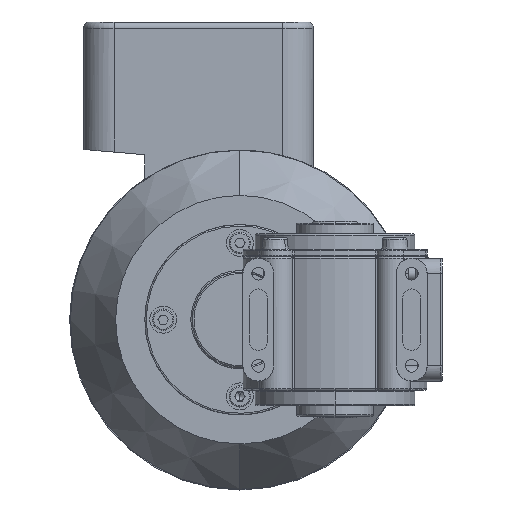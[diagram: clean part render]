
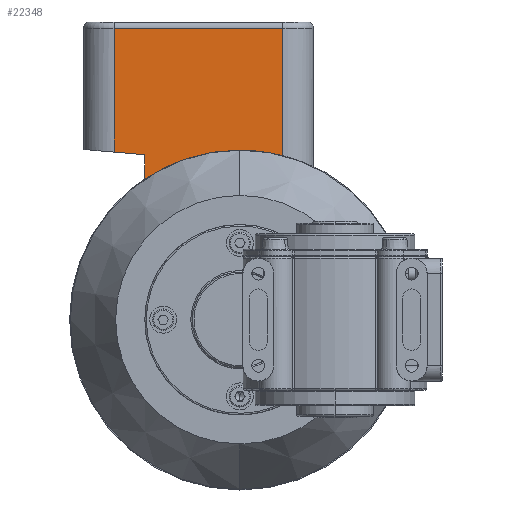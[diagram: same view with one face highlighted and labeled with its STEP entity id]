
A CAD part, left-side view. The second image highlights one B-rep face of the part: STEP entity #22348.
In plain terms, the highlighted planar face has unit normal (-1, 0, 0).
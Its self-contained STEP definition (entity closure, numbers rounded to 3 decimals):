
#168 = CARTESIAN_POINT ( 'NONE',  ( -25.166, 22.807, 95. ) ) ;
#776 = CARTESIAN_POINT ( 'NONE',  ( -25.166, 77.807, 97. ) ) ;
#1192 = EDGE_LOOP ( 'NONE', ( #1467, #7766, #12174, #18949, #5124, #20586, #4183 ) ) ;
#1231 = CIRCLE ( 'NONE', #17009, 55.25 ) ;
#1271 = DIRECTION ( 'NONE',  ( 1., 0., 0. ) ) ;
#1467 = ORIENTED_EDGE ( 'NONE', *, *, #25573, .T. ) ;
#2289 = VERTEX_POINT ( 'NONE', #19998 ) ;
#2987 = DIRECTION ( 'NONE',  ( 0., 0., -1. ) ) ;
#3553 = CARTESIAN_POINT ( 'NONE',  ( -25.166, 22.807, 97. ) ) ;
#4183 = ORIENTED_EDGE ( 'NONE', *, *, #19208, .T. ) ;
#5124 = ORIENTED_EDGE ( 'NONE', *, *, #8504, .T. ) ;
#5510 = CARTESIAN_POINT ( 'NONE',  ( -25.166, 67.807, 53.734 ) ) ;
#5636 = DIRECTION ( 'NONE',  ( 0., 0., 1. ) ) ;
#6381 = VERTEX_POINT ( 'NONE', #23525 ) ;
#7135 = VERTEX_POINT ( 'NONE', #21848 ) ;
#7333 = VERTEX_POINT ( 'NONE', #168 ) ;
#7408 = AXIS2_PLACEMENT_3D ( 'NONE', #14241, #1271, #23201 ) ;
#7766 = ORIENTED_EDGE ( 'NONE', *, *, #26050, .F. ) ;
#8292 = DIRECTION ( 'NONE',  ( 1., 0., 0. ) ) ;
#8504 = EDGE_CURVE ( 'NONE', #10844, #20746, #25797, .T. ) ;
#9359 = DIRECTION ( 'NONE',  ( 0., 0., -1. ) ) ;
#9886 = LINE ( 'NONE', #16679, #18021 ) ;
#9930 = LINE ( 'NONE', #18414, #13766 ) ;
#10141 = DIRECTION ( 'NONE',  ( 0., 0., -1. ) ) ;
#10844 = VERTEX_POINT ( 'NONE', #25223 ) ;
#10946 = CARTESIAN_POINT ( 'NONE',  ( -25.166, 22.807, 53.447 ) ) ;
#11723 = VECTOR ( 'NONE', #10141, 1000. ) ;
#12174 = ORIENTED_EDGE ( 'NONE', *, *, #19757, .F. ) ;
#13766 = VECTOR ( 'NONE', #18554, 1000. ) ;
#14241 = CARTESIAN_POINT ( 'NONE',  ( -25.166, 36.807, 0. ) ) ;
#14791 = EDGE_CURVE ( 'NONE', #7333, #20746, #25313, .T. ) ;
#16085 = DIRECTION ( 'NONE',  ( 1., 0., 0. ) ) ;
#16245 = LINE ( 'NONE', #5510, #17016 ) ;
#16679 = CARTESIAN_POINT ( 'NONE',  ( -25.166, 67.807, 53.734 ) ) ;
#17009 = AXIS2_PLACEMENT_3D ( 'NONE', #22223, #16085, #2987 ) ;
#17016 = VECTOR ( 'NONE', #5636, 1000. ) ;
#17131 = VERTEX_POINT ( 'NONE', #19606 ) ;
#17700 = EDGE_CURVE ( 'NONE', #2289, #10844, #1231, .T. ) ;
#18021 = VECTOR ( 'NONE', #20588, 1000. ) ;
#18414 = CARTESIAN_POINT ( 'NONE',  ( -25.166, 77.807, 95. ) ) ;
#18554 = DIRECTION ( 'NONE',  ( 0., 1., 0. ) ) ;
#18949 = ORIENTED_EDGE ( 'NONE', *, *, #17700, .T. ) ;
#19208 = EDGE_CURVE ( 'NONE', #7333, #17131, #9930, .T. ) ;
#19606 = CARTESIAN_POINT ( 'NONE',  ( -25.166, 77.807, 95. ) ) ;
#19757 = EDGE_CURVE ( 'NONE', #2289, #6381, #16245, .T. ) ;
#19998 = CARTESIAN_POINT ( 'NONE',  ( -25.166, 67.807, 45.734 ) ) ;
#20586 = ORIENTED_EDGE ( 'NONE', *, *, #14791, .F. ) ;
#20588 = DIRECTION ( 'NONE',  ( 0., 0.996, 0.087 ) ) ;
#20746 = VERTEX_POINT ( 'NONE', #10946 ) ;
#20823 = FACE_OUTER_BOUND ( 'NONE', #1192, .T. ) ;
#21848 = CARTESIAN_POINT ( 'NONE',  ( -25.166, 77.807, 54.608 ) ) ;
#22223 = CARTESIAN_POINT ( 'NONE',  ( -25.166, 36.807, 0. ) ) ;
#22348 = ADVANCED_FACE ( 'NONE', ( #20823 ), #27535, .F. ) ;
#23201 = DIRECTION ( 'NONE',  ( 0., 0., -1. ) ) ;
#23525 = CARTESIAN_POINT ( 'NONE',  ( -25.166, 67.807, 53.734 ) ) ;
#24263 = LINE ( 'NONE', #776, #26907 ) ;
#24879 = CARTESIAN_POINT ( 'NONE',  ( -25.166, 77.807, 97. ) ) ;
#25223 = CARTESIAN_POINT ( 'NONE',  ( -25.166, 36.807, 55.25 ) ) ;
#25313 = LINE ( 'NONE', #3553, #11723 ) ;
#25387 = AXIS2_PLACEMENT_3D ( 'NONE', #24879, #8292, #25448 ) ;
#25448 = DIRECTION ( 'NONE',  ( 0., 0., -1. ) ) ;
#25573 = EDGE_CURVE ( 'NONE', #17131, #7135, #24263, .T. ) ;
#25797 = CIRCLE ( 'NONE', #7408, 55.25 ) ;
#26050 = EDGE_CURVE ( 'NONE', #6381, #7135, #9886, .T. ) ;
#26907 = VECTOR ( 'NONE', #9359, 1000. ) ;
#27535 = PLANE ( 'NONE',  #25387 ) ;
